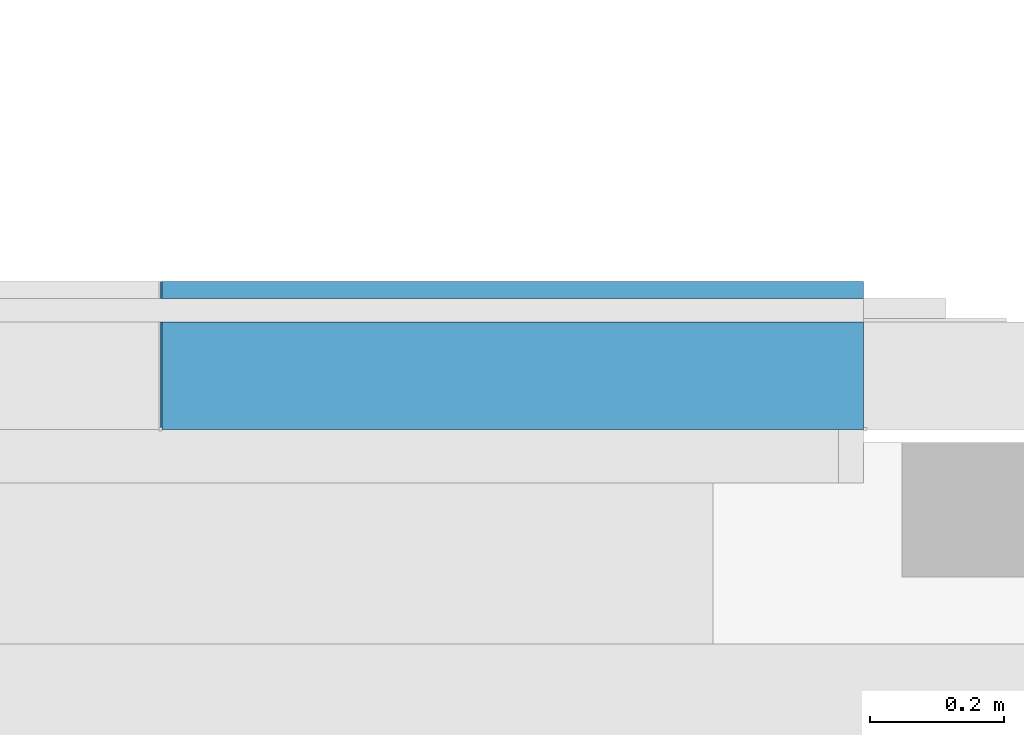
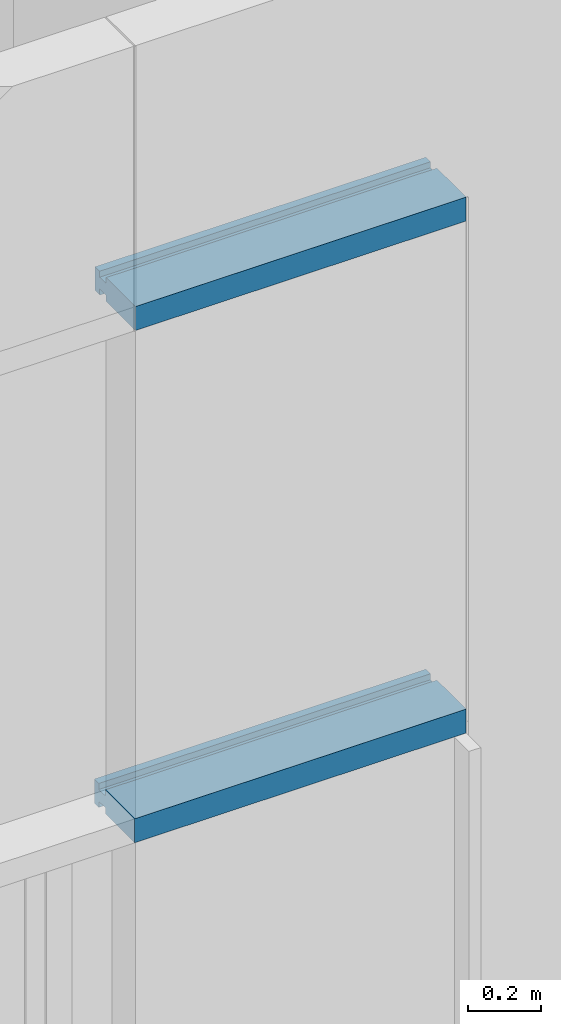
# One storey, part 129 of 302: 2 members, 1 element without a shape of its own.
"""IFC2X3 building model written with IfcOpenShell, lengths in metres."""

from ifc_helpers import new_model, entity, si_unit, converted_unit, derived_unit, direction, frame, origin, place, context, subcontext, project, spatial, polyline, outline, extrude, source, transform, mapped, material, type_object, type_shapes, element, aggregate, save


model = new_model("IFC2X3")

# Units and contexts
model_context = context("Model", 3, precision=1e-05, world=origin(), true_north=direction((6.12303176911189e-17, 1.0)))
body_context = subcontext(model_context, "Body", "Model", "MODEL_VIEW")
ifc_project = project(units=[si_unit("LENGTHUNIT", "METRE"), si_unit("AREAUNIT", "SQUARE_METRE"), si_unit("VOLUMEUNIT", "CUBIC_METRE"), converted_unit("PLANEANGLEUNIT", "DEGREE", entity("IfcRatioMeasure", 0.0174532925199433), si_unit("PLANEANGLEUNIT", "RADIAN"), dimensions=[0, 0, 0, 0, 0, 0, 0]), si_unit("MASSUNIT", "GRAM", prefix="KILO"), derived_unit("MASSDENSITYUNIT", [(si_unit("MASSUNIT", "GRAM", prefix="KILO"), 1), (si_unit("LENGTHUNIT", "METRE"), -3)]), derived_unit("MOMENTOFINERTIAUNIT", [(si_unit("LENGTHUNIT", "METRE"), 4)]), si_unit("TIMEUNIT", "SECOND"), si_unit("FREQUENCYUNIT", "HERTZ"), si_unit("THERMODYNAMICTEMPERATUREUNIT", "DEGREE_CELSIUS"), derived_unit("THERMALTRANSMITTANCEUNIT", [(si_unit("MASSUNIT", "GRAM", prefix="KILO"), 1), (si_unit("THERMODYNAMICTEMPERATUREUNIT", "KELVIN"), -1), (si_unit("TIMEUNIT", "SECOND"), -3)]), derived_unit("VOLUMETRICFLOWRATEUNIT", [(si_unit("LENGTHUNIT", "METRE"), 3), (si_unit("TIMEUNIT", "SECOND"), -1)]), si_unit("ELECTRICCURRENTUNIT", "AMPERE"), si_unit("ELECTRICVOLTAGEUNIT", "VOLT"), si_unit("POWERUNIT", "WATT"), si_unit("FORCEUNIT", "NEWTON", prefix="KILO"), si_unit("ILLUMINANCEUNIT", "LUX"), si_unit("LUMINOUSFLUXUNIT", "LUMEN"), si_unit("LUMINOUSINTENSITYUNIT", "CANDELA"), derived_unit("USERDEFINED", [(si_unit("MASSUNIT", "GRAM", prefix="KILO"), -1), (si_unit("LENGTHUNIT", "METRE"), -2), (si_unit("TIMEUNIT", "SECOND"), 3), (si_unit("LUMINOUSFLUXUNIT", "LUMEN"), 1)]), derived_unit("LINEARVELOCITYUNIT", [(si_unit("LENGTHUNIT", "METRE"), 1), (si_unit("TIMEUNIT", "SECOND"), -1)]), si_unit("PRESSUREUNIT", "PASCAL"), derived_unit("USERDEFINED", [(si_unit("LENGTHUNIT", "METRE"), -2), (si_unit("MASSUNIT", "GRAM", prefix="KILO"), 1), (si_unit("TIMEUNIT", "SECOND"), -2)]), derived_unit("LINEARFORCEUNIT", [(si_unit("MASSUNIT", "GRAM", prefix="KILO"), 1), (si_unit("LENGTHUNIT", "METRE"), 1), (si_unit("TIMEUNIT", "SECOND"), -2), (si_unit("LENGTHUNIT", "METRE"), -1)]), derived_unit("PLANARFORCEUNIT", [(si_unit("MASSUNIT", "GRAM", prefix="KILO"), 1), (si_unit("LENGTHUNIT", "METRE"), 1), (si_unit("TIMEUNIT", "SECOND"), -2), (si_unit("LENGTHUNIT", "METRE"), -2)])], contexts=[model_context])

# Site, building, storey
site_placement = place(None, origin())
site = spatial("IfcSite", under=ifc_project, at=site_placement, Name="Default", CompositionType="ELEMENT")
building_placement = place(site_placement, origin())
building = spatial("IfcBuilding", under=site, at=building_placement, CompositionType="ELEMENT")
storey_placement = place(building_placement, frame((0.0, 0.0, -1.3)))
storey = spatial("IfcBuildingStorey", under=building, at=storey_placement, Name="00_EG", CompositionType="ELEMENT", Elevation=-1.3)

# Curtain wall, members
curtain_wall_type = type_object("IfcCurtainWallType", Name="Fassade:Curtain Wall 1", PredefinedType="NOTDEFINED")
curtain_wall_placement = place(storey_placement, frame((0.0, 0.0, 1.3)))
curtain_wall = element("IfcCurtainWall", 1, at=curtain_wall_placement, inside=storey, type_object=curtain_wall_type, Name="Fassade:Curtain Wall 1", ObjectType="Fassade:Curtain Wall 1")
ifc_material = material(Name="Prepainted_Steel-ArcelorMittal_Construction_HAIRULTRA-35-CORAL-4309-[RAL_3000]")
member_type_1 = type_object("IfcMemberType", Name="Rectangular Mullion:Fassadenrahmen Typ 1", PredefinedType="MULLION", material=ifc_material)
shared_shape_1 = source(origin(), body_context, "Body", "SweptSolid", [
    extrude(outline(polyline([(-0.065, -0.04), (-0.04, -0.04), (-0.04, -0.02), (-0.00499999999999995, -0.02), (-0.00499999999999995, -0.04), (0.155, -0.04), (0.155, 0.04), (-0.00499999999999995, 0.04), (-0.00499999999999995, 0.02), (-0.04, 0.02), (-0.04, 0.04), (-0.065, 0.04), (-0.065, -0.04)])), frame((0.0, 0.155, -1.04750000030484), z_axis=(0.0, 0.0, 1.0), x_axis=(0.0, -1.0, 0.0)), (0.0, 0.0, 1.0), 1.04750000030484),
])
type_shapes(member_type_1, [shared_shape_1])
member_1_placement = place(storey_placement, frame((-211.610111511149, 45.578088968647, 8.49999999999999), z_axis=(-1.0, 0.0, 0.0), x_axis=(0.0, 0.0, 1.0)))
member_1 = element("IfcMember", 2, at=member_1_placement, type_object=member_type_1, material=ifc_material, Name="Rectangular Mullion:Fassadenrahmen Typ 1", ObjectType="Rectangular Mullion:Fassadenrahmen Typ 1", context=body_context, shape_type="MappedRepresentation", body=[
    mapped(shared_shape_1, transform((0.0, 0.0, 0.0), scale=1.0)),
])
member_type_2 = type_object("IfcMemberType", Name="Rectangular Mullion:Fassadenrahmen Typ 1", PredefinedType="MULLION", material=ifc_material)
shared_shape_2 = source(origin(), body_context, "Body", "SweptSolid", [
    extrude(outline(polyline([(-0.065, -0.04), (-0.04, -0.04), (-0.04, -0.02), (-0.00499999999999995, -0.02), (-0.00499999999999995, -0.04), (0.155, -0.04), (0.155, 0.04), (-0.00499999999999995, 0.04), (-0.00499999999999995, 0.02), (-0.04, 0.02), (-0.04, 0.04), (-0.065, 0.04), (-0.065, -0.04)])), frame((0.0, 0.155, -1.04500000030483), z_axis=(0.0, 0.0, 1.0), x_axis=(0.0, -1.0, 0.0)), (0.0, 0.0, 1.0), 1.04500000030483),
])
type_shapes(member_type_2, [shared_shape_2])
member_2_placement = place(storey_placement, frame((-211.607611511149, 45.578088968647, 10.2096475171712), z_axis=(-1.0, 0.0, 0.0), x_axis=(0.0, 0.0, 1.0)))
member_2 = element("IfcMember", 3, at=member_2_placement, type_object=member_type_2, material=ifc_material, Name="Rectangular Mullion:Fassadenrahmen Typ 1", ObjectType="Rectangular Mullion:Fassadenrahmen Typ 1", context=body_context, shape_type="MappedRepresentation", body=[
    mapped(shared_shape_2, transform((0.0, 0.0, 0.0), scale=1.0)),
])
aggregate(curtain_wall, [member_1, member_2])

save(model, "model.ifc")
